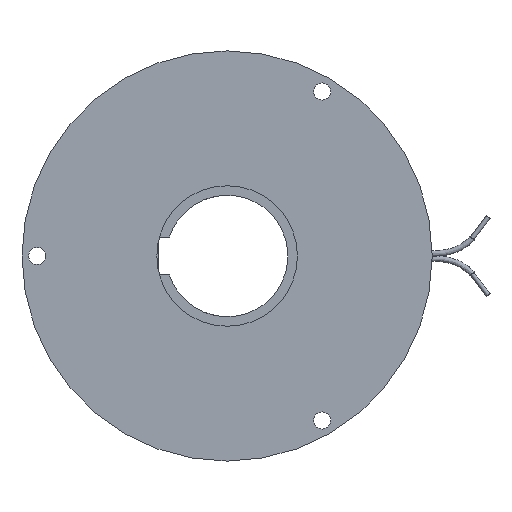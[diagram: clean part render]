
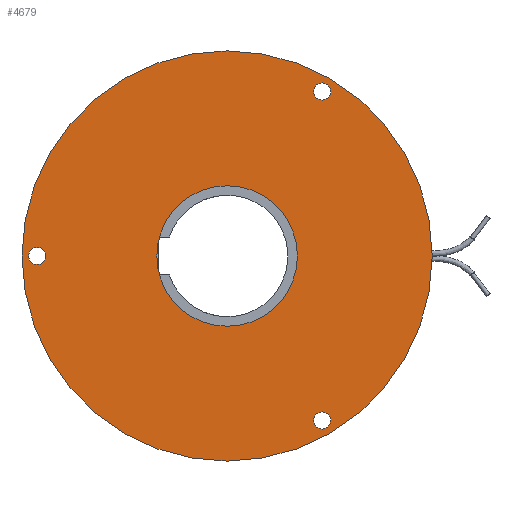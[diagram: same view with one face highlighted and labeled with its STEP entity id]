
A CAD part, left-side view. The second image highlights one B-rep face of the part: STEP entity #4679.
In plain terms, the highlighted planar face has unit normal (-1, 0, 0).
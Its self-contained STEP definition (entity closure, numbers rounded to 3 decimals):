
#107=FACE_BOUND('',#690,.T.);
#108=FACE_BOUND('',#691,.T.);
#109=FACE_BOUND('',#692,.T.);
#110=FACE_BOUND('',#693,.T.);
#195=PLANE('',#5241);
#402=FACE_OUTER_BOUND('',#689,.T.);
#689=EDGE_LOOP('',(#3704,#3705));
#690=EDGE_LOOP('',(#3706));
#691=EDGE_LOOP('',(#3707));
#692=EDGE_LOOP('',(#3708));
#693=EDGE_LOOP('',(#3709,#3710));
#1428=CIRCLE('',#5165,18.5);
#1429=CIRCLE('',#5166,18.5);
#1478=CIRCLE('',#5220,54.);
#1479=CIRCLE('',#5221,54.);
#1483=CIRCLE('',#5228,2.25);
#1484=CIRCLE('',#5230,2.25);
#1485=CIRCLE('',#5232,2.25);
#1918=VERTEX_POINT('',#8215);
#1919=VERTEX_POINT('',#8217);
#1967=VERTEX_POINT('',#8323);
#1968=VERTEX_POINT('',#8325);
#1976=VERTEX_POINT('',#8376);
#1977=VERTEX_POINT('',#8380);
#1978=VERTEX_POINT('',#8384);
#2503=EDGE_CURVE('',#1919,#1918,#1428,.T.);
#2504=EDGE_CURVE('',#1918,#1919,#1429,.T.);
#2557=EDGE_CURVE('',#1967,#1968,#1478,.T.);
#2558=EDGE_CURVE('',#1968,#1967,#1479,.T.);
#2569=EDGE_CURVE('',#1976,#1976,#1483,.T.);
#2571=EDGE_CURVE('',#1977,#1977,#1484,.T.);
#2573=EDGE_CURVE('',#1978,#1978,#1485,.T.);
#3704=ORIENTED_EDGE('',*,*,#2558,.F.);
#3705=ORIENTED_EDGE('',*,*,#2557,.F.);
#3706=ORIENTED_EDGE('',*,*,#2573,.T.);
#3707=ORIENTED_EDGE('',*,*,#2571,.T.);
#3708=ORIENTED_EDGE('',*,*,#2569,.T.);
#3709=ORIENTED_EDGE('',*,*,#2503,.T.);
#3710=ORIENTED_EDGE('',*,*,#2504,.T.);
#4679=ADVANCED_FACE('',(#402,#107,#108,#109,#110),#195,.T.);
#5165=AXIS2_PLACEMENT_3D('',#8218,#6364,#6365);
#5166=AXIS2_PLACEMENT_3D('',#8219,#6366,#6367);
#5220=AXIS2_PLACEMENT_3D('',#8326,#6478,#6479);
#5221=AXIS2_PLACEMENT_3D('',#8327,#6480,#6481);
#5228=AXIS2_PLACEMENT_3D('',#8378,#6498,#6499);
#5230=AXIS2_PLACEMENT_3D('',#8382,#6503,#6504);
#5232=AXIS2_PLACEMENT_3D('',#8386,#6508,#6509);
#5241=AXIS2_PLACEMENT_3D('',#8445,#6531,#6532);
#6364=DIRECTION('center_axis',(1.,0.,0.));
#6365=DIRECTION('ref_axis',(0.,0.,-1.));
#6366=DIRECTION('center_axis',(1.,0.,0.));
#6367=DIRECTION('ref_axis',(0.,0.,-1.));
#6478=DIRECTION('center_axis',(1.,0.,0.));
#6479=DIRECTION('ref_axis',(0.,0.,-1.));
#6480=DIRECTION('center_axis',(1.,0.,0.));
#6481=DIRECTION('ref_axis',(0.,0.,-1.));
#6498=DIRECTION('center_axis',(1.,0.,0.));
#6499=DIRECTION('ref_axis',(0.,0.,-1.));
#6503=DIRECTION('center_axis',(1.,0.,0.));
#6504=DIRECTION('ref_axis',(0.,0.,-1.));
#6508=DIRECTION('center_axis',(1.,0.,0.));
#6509=DIRECTION('ref_axis',(0.,0.,-1.));
#6531=DIRECTION('center_axis',(-1.,0.,0.));
#6532=DIRECTION('ref_axis',(0.,0.,1.));
#8215=CARTESIAN_POINT('',(-13.,-18.5,0.));
#8217=CARTESIAN_POINT('',(-13.,18.5,0.));
#8218=CARTESIAN_POINT('Origin',(-13.,0.,0.));
#8219=CARTESIAN_POINT('Origin',(-13.,0.,0.));
#8323=CARTESIAN_POINT('',(-13.,-54.,0.));
#8325=CARTESIAN_POINT('',(-13.,54.,0.));
#8326=CARTESIAN_POINT('Origin',(-13.,0.,0.));
#8327=CARTESIAN_POINT('Origin',(-13.,0.,0.));
#8376=CARTESIAN_POINT('',(-13.,-25.,-41.051));
#8378=CARTESIAN_POINT('Origin',(-13.,-25.,-43.301));
#8380=CARTESIAN_POINT('',(-13.,50.,2.25));
#8382=CARTESIAN_POINT('Origin',(-13.,50.,0.));
#8384=CARTESIAN_POINT('',(-13.,-25.,45.551));
#8386=CARTESIAN_POINT('Origin',(-13.,-25.,43.301));
#8445=CARTESIAN_POINT('Origin',(-13.,54.,0.));
